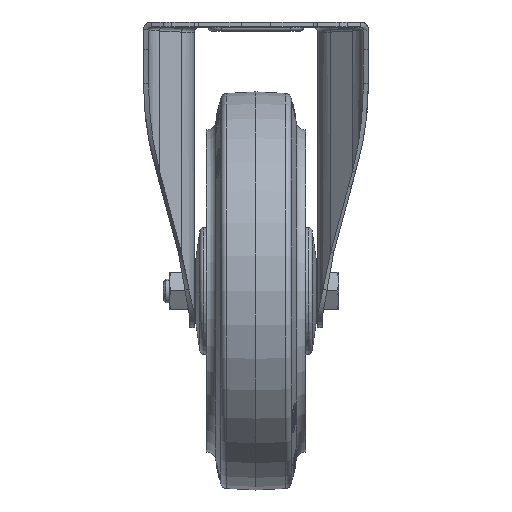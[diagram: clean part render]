
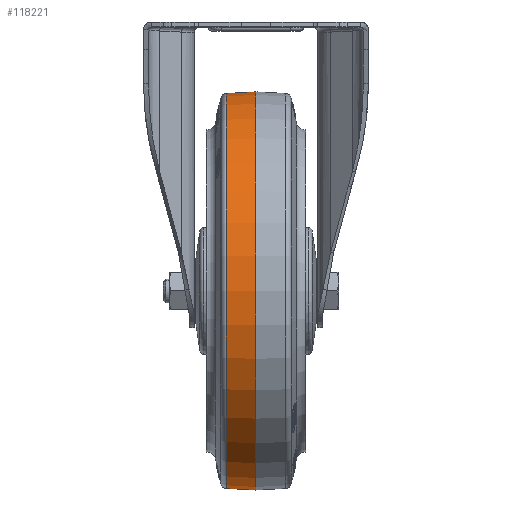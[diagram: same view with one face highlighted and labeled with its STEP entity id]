
A CAD part, top view. The second image highlights one B-rep face of the part: STEP entity #118221.
In plain terms, the highlighted conical face has half-angle 3 degrees and reference radius 99.611 mm.
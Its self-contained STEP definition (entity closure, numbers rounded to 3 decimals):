
#1219 = CIRCLE ( 'NONE', #4655, 99.222 ) ;
#2180 = EDGE_CURVE ( 'NONE', #145897, #95176, #126640, .T. ) ;
#4655 = AXIS2_PLACEMENT_3D ( 'NONE', #84565, #135049, #57764 ) ;
#13203 = LINE ( 'NONE', #134977, #107440 ) ;
#13740 = CARTESIAN_POINT ( 'NONE',  ( -14.854, -99.222, 0. ) ) ;
#15786 = DIRECTION ( 'NONE',  ( 1., 0., 0. ) ) ;
#16876 = CARTESIAN_POINT ( 'NONE',  ( 0., 0., 0. ) ) ;
#25274 = VERTEX_POINT ( 'NONE', #118661 ) ;
#27143 = ORIENTED_EDGE ( 'NONE', *, *, #89710, .T. ) ;
#46255 = VECTOR ( 'NONE', #60806, 1000. ) ;
#52823 = CARTESIAN_POINT ( 'NONE',  ( -7.427, 0., 0. ) ) ;
#54680 = CARTESIAN_POINT ( 'NONE',  ( 0., -100., 0. ) ) ;
#57764 = DIRECTION ( 'NONE',  ( 0., -1., 0. ) ) ;
#59796 = EDGE_CURVE ( 'NONE', #145897, #25274, #77214, .T. ) ;
#60806 = DIRECTION ( 'NONE',  ( -0.999, 0.052, 0. ) ) ;
#62663 = CARTESIAN_POINT ( 'NONE',  ( -14.854, 99.222, 0. ) ) ;
#67839 = DIRECTION ( 'NONE',  ( 0., -1., 0. ) ) ;
#73542 = AXIS2_PLACEMENT_3D ( 'NONE', #16876, #15786, #67839 ) ;
#77214 = CIRCLE ( 'NONE', #73542, 100. ) ;
#79959 = EDGE_CURVE ( 'NONE', #25274, #152467, #13203, .T. ) ;
#84565 = CARTESIAN_POINT ( 'NONE',  ( -14.854, 0., 0. ) ) ;
#84837 = ORIENTED_EDGE ( 'NONE', *, *, #79959, .F. ) ;
#89710 = EDGE_CURVE ( 'NONE', #95176, #152467, #1219, .T. ) ;
#95176 = VERTEX_POINT ( 'NONE', #13740 ) ;
#95918 = ORIENTED_EDGE ( 'NONE', *, *, #59796, .F. ) ;
#99269 = DIRECTION ( 'NONE',  ( -0.999, -0.052, 0. ) ) ;
#100551 = FACE_OUTER_BOUND ( 'NONE', #138529, .T. ) ;
#103224 = DIRECTION ( 'NONE',  ( 0., 1., 0. ) ) ;
#107440 = VECTOR ( 'NONE', #99269, 1000. ) ;
#118221 = ADVANCED_FACE ( 'NONE', ( #100551 ), #139743, .T. ) ;
#118661 = CARTESIAN_POINT ( 'NONE',  ( 0., 100., 0. ) ) ;
#124960 = CARTESIAN_POINT ( 'NONE',  ( 0., -100., 0. ) ) ;
#126640 = LINE ( 'NONE', #124960, #46255 ) ;
#130225 = AXIS2_PLACEMENT_3D ( 'NONE', #52823, #152065, #103224 ) ;
#134977 = CARTESIAN_POINT ( 'NONE',  ( 0., 100., 0. ) ) ;
#135049 = DIRECTION ( 'NONE',  ( 1., 0., 0. ) ) ;
#136354 = ORIENTED_EDGE ( 'NONE', *, *, #2180, .T. ) ;
#138529 = EDGE_LOOP ( 'NONE', ( #27143, #84837, #95918, #136354 ) ) ;
#139743 = CONICAL_SURFACE ( 'NONE', #130225, 99.611, 0.052 ) ;
#145897 = VERTEX_POINT ( 'NONE', #54680 ) ;
#152065 = DIRECTION ( 'NONE',  ( 1., 0., 0. ) ) ;
#152467 = VERTEX_POINT ( 'NONE', #62663 ) ;
